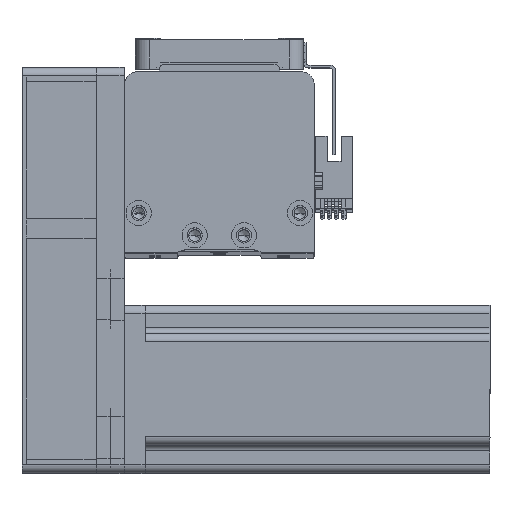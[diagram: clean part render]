
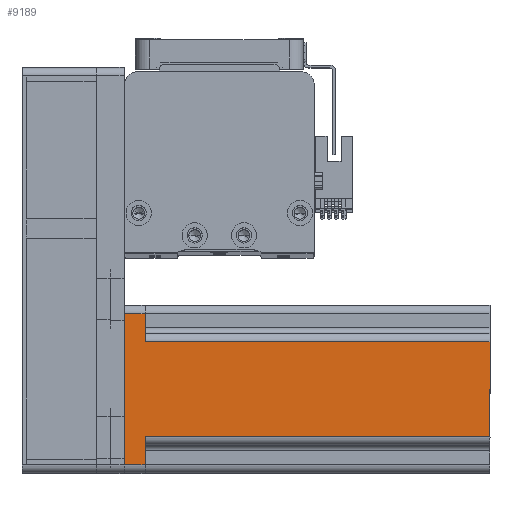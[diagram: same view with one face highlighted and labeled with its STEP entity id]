
A CAD part, top view. The second image highlights one B-rep face of the part: STEP entity #9189.
In plain terms, the highlighted planar face has unit normal (0, 0, 1) as drawn and (0, -1, 0) by its records, which use the part's own axes.
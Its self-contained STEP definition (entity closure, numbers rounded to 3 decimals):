
#511 = ORIENTED_EDGE ( 'NONE', *, *, #17474, .F. ) ;
#614 = EDGE_CURVE ( 'NONE', #44757, #2969, #42967, .T. ) ;
#776 = VECTOR ( 'NONE', #18413, 1000. ) ;
#797 = VECTOR ( 'NONE', #15453, 1000. ) ;
#1139 = ORIENTED_EDGE ( 'NONE', *, *, #43386, .F. ) ;
#2969 = VERTEX_POINT ( 'NONE', #11092 ) ;
#3948 = VERTEX_POINT ( 'NONE', #5202 ) ;
#5202 = CARTESIAN_POINT ( 'NONE',  ( 27., -30., 0. ) ) ;
#7519 = EDGE_CURVE ( 'NONE', #3948, #9164, #29117, .T. ) ;
#9114 = EDGE_CURVE ( 'NONE', #21562, #18136, #41563, .T. ) ;
#9164 = VERTEX_POINT ( 'NONE', #40057 ) ;
#9189 = ADVANCED_FACE ( 'NONE', ( #16129 ), #14224, .F. ) ;
#9615 = CARTESIAN_POINT ( 'NONE',  ( 17., -30., 130.7 ) ) ;
#11092 = CARTESIAN_POINT ( 'NONE',  ( -17., -30., 7.5 ) ) ;
#11158 = EDGE_CURVE ( 'NONE', #30052, #20170, #30054, .T. ) ;
#11255 = VECTOR ( 'NONE', #13361, 1000. ) ;
#11772 = LINE ( 'NONE', #44224, #776 ) ;
#11887 = CARTESIAN_POINT ( 'NONE',  ( -27., -30., 130.7 ) ) ;
#12367 = LINE ( 'NONE', #46405, #11255 ) ;
#12369 = CARTESIAN_POINT ( 'NONE',  ( -17., -30., 130.7 ) ) ;
#13361 = DIRECTION ( 'NONE',  ( 1., 0., 0. ) ) ;
#14224 = PLANE ( 'NONE',  #23982 ) ;
#15081 = LINE ( 'NONE', #35192, #33534 ) ;
#15093 = CARTESIAN_POINT ( 'NONE',  ( -27., -30., 0. ) ) ;
#15453 = DIRECTION ( 'NONE',  ( 0., 0., 1. ) ) ;
#15580 = CARTESIAN_POINT ( 'NONE',  ( -27., -30., 7.5 ) ) ;
#15601 = DIRECTION ( 'NONE',  ( 0., 0., -1. ) ) ;
#16129 = FACE_OUTER_BOUND ( 'NONE', #17732, .T. ) ;
#16556 = EDGE_CURVE ( 'NONE', #20170, #3948, #25335, .T. ) ;
#16924 = ORIENTED_EDGE ( 'NONE', *, *, #41812, .T. ) ;
#17474 = EDGE_CURVE ( 'NONE', #44757, #18136, #12367, .T. ) ;
#17671 = DIRECTION ( 'NONE',  ( 0., 0., -1. ) ) ;
#17732 = EDGE_LOOP ( 'NONE', ( #511, #24107, #1139, #47029, #27581, #39214, #16924, #19612 ) ) ;
#18136 = VERTEX_POINT ( 'NONE', #9615 ) ;
#18413 = DIRECTION ( 'NONE',  ( -1., 0., 0. ) ) ;
#19612 = ORIENTED_EDGE ( 'NONE', *, *, #9114, .T. ) ;
#20170 = VERTEX_POINT ( 'NONE', #15093 ) ;
#21165 = DIRECTION ( 'NONE',  ( 0., 0., 1. ) ) ;
#21562 = VERTEX_POINT ( 'NONE', #32414 ) ;
#21820 = DIRECTION ( 'NONE',  ( 0., 1., 0. ) ) ;
#22217 = CARTESIAN_POINT ( 'NONE',  ( -17., -30., 130.7 ) ) ;
#23982 = AXIS2_PLACEMENT_3D ( 'NONE', #43897, #21820, #47555 ) ;
#24107 = ORIENTED_EDGE ( 'NONE', *, *, #614, .T. ) ;
#25335 = LINE ( 'NONE', #44428, #43809 ) ;
#27581 = ORIENTED_EDGE ( 'NONE', *, *, #16556, .T. ) ;
#29117 = LINE ( 'NONE', #41288, #797 ) ;
#30052 = VERTEX_POINT ( 'NONE', #15580 ) ;
#30054 = LINE ( 'NONE', #11887, #38706 ) ;
#31703 = VECTOR ( 'NONE', #21165, 1000. ) ;
#32414 = CARTESIAN_POINT ( 'NONE',  ( 17., -30., 7.5 ) ) ;
#33148 = VECTOR ( 'NONE', #17671, 1000. ) ;
#33534 = VECTOR ( 'NONE', #42627, 1000. ) ;
#35192 = CARTESIAN_POINT ( 'NONE',  ( -20., -30., 7.5 ) ) ;
#37033 = DIRECTION ( 'NONE',  ( 1., 0., 0. ) ) ;
#38706 = VECTOR ( 'NONE', #15601, 1000. ) ;
#39214 = ORIENTED_EDGE ( 'NONE', *, *, #7519, .T. ) ;
#40057 = CARTESIAN_POINT ( 'NONE',  ( 27., -30., 7.5 ) ) ;
#41288 = CARTESIAN_POINT ( 'NONE',  ( 27., -30., 130.7 ) ) ;
#41563 = LINE ( 'NONE', #43259, #31703 ) ;
#41812 = EDGE_CURVE ( 'NONE', #9164, #21562, #11772, .T. ) ;
#42627 = DIRECTION ( 'NONE',  ( 1., 0., 0. ) ) ;
#42967 = LINE ( 'NONE', #12369, #33148 ) ;
#43259 = CARTESIAN_POINT ( 'NONE',  ( 17., -30., 130.7 ) ) ;
#43386 = EDGE_CURVE ( 'NONE', #30052, #2969, #15081, .T. ) ;
#43809 = VECTOR ( 'NONE', #37033, 1000. ) ;
#43897 = CARTESIAN_POINT ( 'NONE',  ( 30., -30., 130.7 ) ) ;
#44224 = CARTESIAN_POINT ( 'NONE',  ( 20., -30., 7.5 ) ) ;
#44428 = CARTESIAN_POINT ( 'NONE',  ( 30., -30., 0. ) ) ;
#44757 = VERTEX_POINT ( 'NONE', #22217 ) ;
#46405 = CARTESIAN_POINT ( 'NONE',  ( 30., -30., 130.7 ) ) ;
#47029 = ORIENTED_EDGE ( 'NONE', *, *, #11158, .T. ) ;
#47555 = DIRECTION ( 'NONE',  ( -1., 0., 0. ) ) ;
